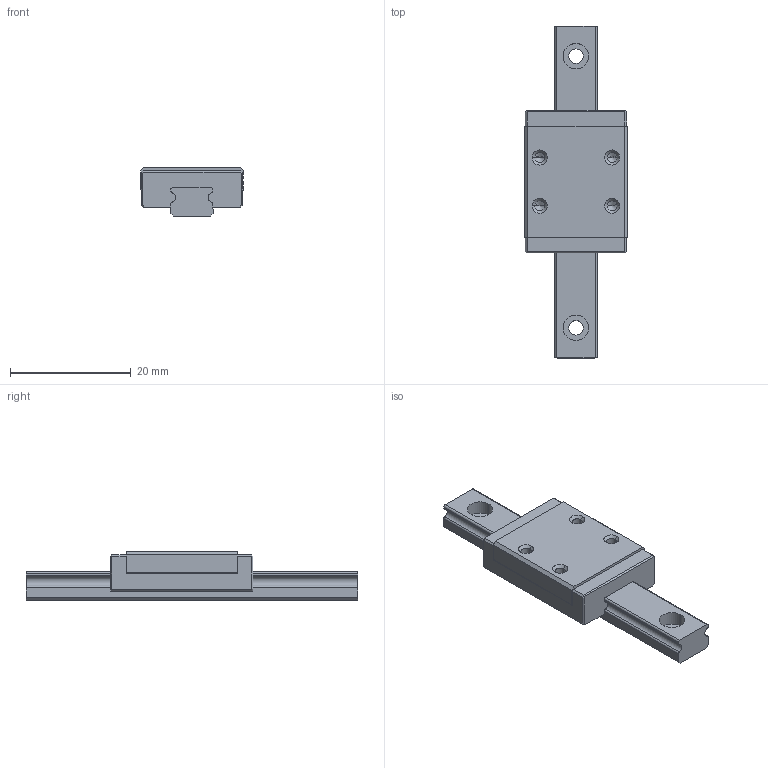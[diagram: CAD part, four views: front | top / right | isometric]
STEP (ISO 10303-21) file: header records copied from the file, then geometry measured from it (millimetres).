
FILE_DESCRIPTION( ( '' ), '1' );
FILE_NAME( 'V:\MSC\MODEL File\MAC catalog drawing\STEP\MSC7M.stp', ' ', ( '' ), ( '' ), 'ACIS Interop R16', 'Kubotek KeyCreator V6.3.0 (0248)', ' ' );
FILE_SCHEMA( ( 'CONFIG_CONTROL_DESIGN' ) );
Length unit declared in the file: millimetre
Products named in the file (2): 1; 2
Bounding box: 17 x 55 x 8 mm (x, y, z)
Volume: 3530.4 mm3; surface area: 3059.1 mm2
Topology: 2 solids, 2 shells, 118 faces, 298 edges, 184 vertices
Faces by surface type: plane 59, cylinder 43, cone 16
Entity records: 3575 total; most frequent: DIRECTION 625, CARTESIAN_POINT 603, ORIENTED_EDGE 580, EDGE_CURVE 290, AXIS2_PLACEMENT_3D 218, LINE 189, VECTOR 189, VERTEX_POINT 184
